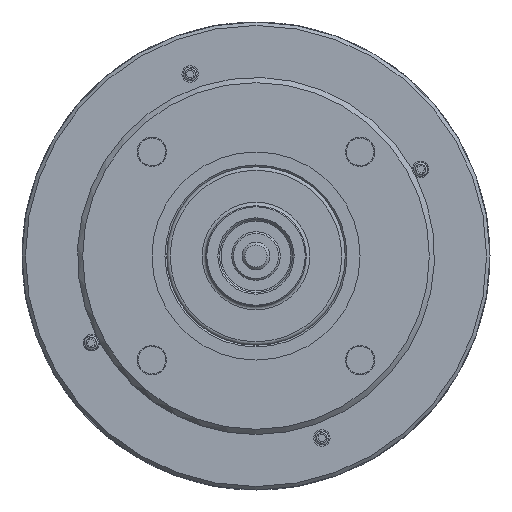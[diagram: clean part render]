
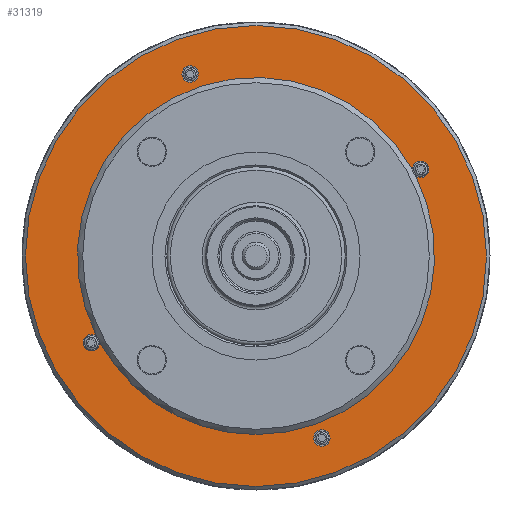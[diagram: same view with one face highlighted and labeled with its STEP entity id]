
A CAD part, left-side view. The second image highlights one B-rep face of the part: STEP entity #31319.
In plain terms, the highlighted planar face has unit normal (-1, 0, 0).
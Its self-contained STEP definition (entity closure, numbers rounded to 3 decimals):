
#973 = CIRCLE ( 'NONE', #8096, 103. ) ;
#2127 = EDGE_CURVE ( 'NONE', #12802, #56656, #50180, .T. ) ;
#2819 = DIRECTION ( 'NONE',  ( 1., 0., 0. ) ) ;
#7306 = FACE_BOUND ( 'NONE', #31163, .T. ) ;
#8096 = AXIS2_PLACEMENT_3D ( 'NONE', #65381, #60457, #9652 ) ;
#8878 = VERTEX_POINT ( 'NONE', #49346 ) ;
#9261 = DIRECTION ( 'NONE',  ( 0., 0., -1. ) ) ;
#9652 = DIRECTION ( 'NONE',  ( 0., 0., -1. ) ) ;
#10219 = CARTESIAN_POINT ( 'NONE',  ( -107., 95., -50. ) ) ;
#10693 = VERTEX_POINT ( 'NONE', #19124 ) ;
#11301 = DIRECTION ( 'NONE',  ( 1., 0., 0. ) ) ;
#12631 = CARTESIAN_POINT ( 'NONE',  ( -107., -90.266, 49.609 ) ) ;
#12802 = VERTEX_POINT ( 'NONE', #12631 ) ;
#13632 = CARTESIAN_POINT ( 'NONE',  ( -107., 0., 0. ) ) ;
#13880 = DIRECTION ( 'NONE',  ( 0., 0., -1. ) ) ;
#13944 = DIRECTION ( 'NONE',  ( 1., 0., 0. ) ) ;
#15428 = AXIS2_PLACEMENT_3D ( 'NONE', #10219, #15622, #9261 ) ;
#15622 = DIRECTION ( 'NONE',  ( 1., 0., 0. ) ) ;
#16778 = VERTEX_POINT ( 'NONE', #49834 ) ;
#18240 = DIRECTION ( 'NONE',  ( 1., 0., 0. ) ) ;
#18385 = EDGE_CURVE ( 'NONE', #62556, #62556, #24141, .T. ) ;
#19124 = CARTESIAN_POINT ( 'NONE',  ( -107., 91.997, -46.319 ) ) ;
#20313 = CIRCLE ( 'NONE', #52381, 103. ) ;
#20950 = EDGE_CURVE ( 'NONE', #56656, #66454, #973, .T. ) ;
#24141 = CIRCLE ( 'NONE', #68646, 133. ) ;
#24592 = CARTESIAN_POINT ( 'NONE',  ( -107., 0., -133. ) ) ;
#26667 = ORIENTED_EDGE ( 'NONE', *, *, #44879, .T. ) ;
#28514 = CARTESIAN_POINT ( 'NONE',  ( -107., 0., 0. ) ) ;
#28817 = DIRECTION ( 'NONE',  ( 1., 0., 0. ) ) ;
#29303 = AXIS2_PLACEMENT_3D ( 'NONE', #36582, #13944, #69729 ) ;
#29552 = CARTESIAN_POINT ( 'NONE',  ( -107., 38., 105. ) ) ;
#29737 = ORIENTED_EDGE ( 'NONE', *, *, #59926, .T. ) ;
#30330 = CARTESIAN_POINT ( 'NONE',  ( -107., -95., 50. ) ) ;
#31163 = EDGE_LOOP ( 'NONE', ( #29737 ) ) ;
#31319 = ADVANCED_FACE ( 'NONE', ( #71437, #7306, #46777, #52178 ), #59394, .F. ) ;
#33083 = ORIENTED_EDGE ( 'NONE', *, *, #36801, .T. ) ;
#33803 = EDGE_LOOP ( 'NONE', ( #38968 ) ) ;
#36299 = CIRCLE ( 'NONE', #69180, 4.75 ) ;
#36582 = CARTESIAN_POINT ( 'NONE',  ( -107., -103., 0. ) ) ;
#36801 = EDGE_CURVE ( 'NONE', #66454, #10693, #60962, .T. ) ;
#38968 = ORIENTED_EDGE ( 'NONE', *, *, #51573, .T. ) ;
#39735 = ORIENTED_EDGE ( 'NONE', *, *, #20950, .T. ) ;
#42170 = CARTESIAN_POINT ( 'NONE',  ( -107., -91.997, 46.319 ) ) ;
#42977 = EDGE_LOOP ( 'NONE', ( #26667, #61292, #39735, #33083 ) ) ;
#43623 = ORIENTED_EDGE ( 'NONE', *, *, #18385, .F. ) ;
#44879 = EDGE_CURVE ( 'NONE', #10693, #12802, #20313, .T. ) ;
#46777 = FACE_OUTER_BOUND ( 'NONE', #66913, .T. ) ;
#47617 = AXIS2_PLACEMENT_3D ( 'NONE', #29552, #18240, #62913 ) ;
#49346 = CARTESIAN_POINT ( 'NONE',  ( -107., 38., 100.25 ) ) ;
#49834 = CARTESIAN_POINT ( 'NONE',  ( -107., -38., -109.75 ) ) ;
#50175 = CIRCLE ( 'NONE', #47617, 4.75 ) ;
#50180 = CIRCLE ( 'NONE', #59185, 4.75 ) ;
#51573 = EDGE_CURVE ( 'NONE', #8878, #8878, #50175, .T. ) ;
#52178 = FACE_BOUND ( 'NONE', #42977, .T. ) ;
#52381 = AXIS2_PLACEMENT_3D ( 'NONE', #13632, #2819, #13880 ) ;
#56656 = VERTEX_POINT ( 'NONE', #42170 ) ;
#59185 = AXIS2_PLACEMENT_3D ( 'NONE', #30330, #64414, #70071 ) ;
#59394 = PLANE ( 'NONE',  #29303 ) ;
#59926 = EDGE_CURVE ( 'NONE', #16778, #16778, #36299, .T. ) ;
#60457 = DIRECTION ( 'NONE',  ( 1., 0., 0. ) ) ;
#60962 = CIRCLE ( 'NONE', #15428, 4.75 ) ;
#61292 = ORIENTED_EDGE ( 'NONE', *, *, #2127, .T. ) ;
#62133 = DIRECTION ( 'NONE',  ( 0., 0., -1. ) ) ;
#62432 = CARTESIAN_POINT ( 'NONE',  ( -107., -38., -105. ) ) ;
#62556 = VERTEX_POINT ( 'NONE', #24592 ) ;
#62913 = DIRECTION ( 'NONE',  ( 0., 0., -1. ) ) ;
#64155 = DIRECTION ( 'NONE',  ( 0., 0., -1. ) ) ;
#64414 = DIRECTION ( 'NONE',  ( 1., 0., 0. ) ) ;
#65381 = CARTESIAN_POINT ( 'NONE',  ( -107., 0., 0. ) ) ;
#66454 = VERTEX_POINT ( 'NONE', #70842 ) ;
#66913 = EDGE_LOOP ( 'NONE', ( #43623 ) ) ;
#68646 = AXIS2_PLACEMENT_3D ( 'NONE', #28514, #11301, #62133 ) ;
#69180 = AXIS2_PLACEMENT_3D ( 'NONE', #62432, #28817, #64155 ) ;
#69729 = DIRECTION ( 'NONE',  ( 0., 0., -1. ) ) ;
#70071 = DIRECTION ( 'NONE',  ( 0., 0., -1. ) ) ;
#70842 = CARTESIAN_POINT ( 'NONE',  ( -107., 90.266, -49.609 ) ) ;
#71437 = FACE_BOUND ( 'NONE', #33803, .T. ) ;
